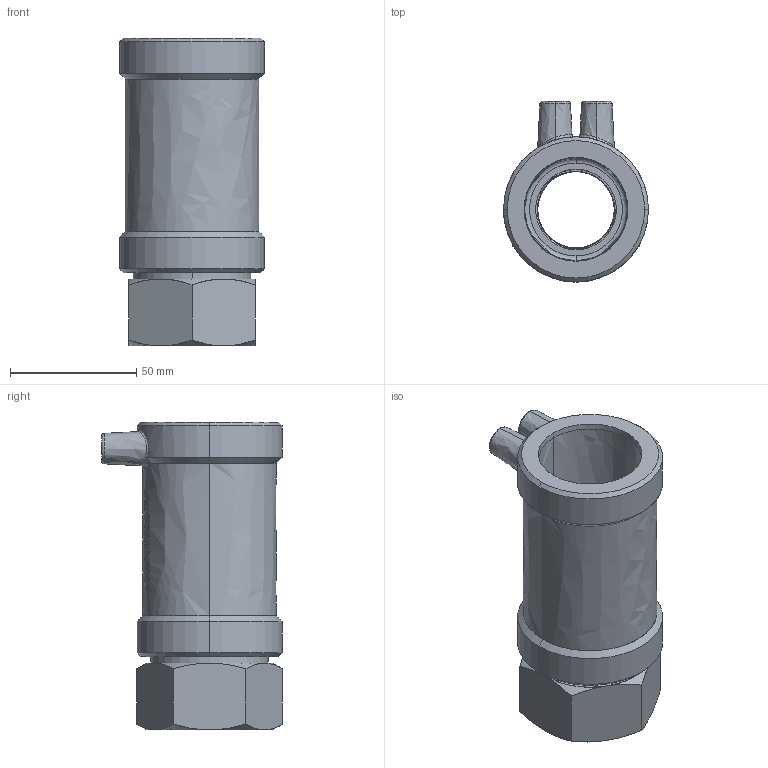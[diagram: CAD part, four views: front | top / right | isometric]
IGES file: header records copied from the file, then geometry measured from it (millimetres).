
Start section:  PTC IGES file: ustm_d40_1_01.igs
Global section: file name: ustm_d40_1_01.igs; native system: Pro/ENGINEER by Parametric Technology Corporation; preprocessor: 2011490; author: mtunjic; organization: Unknown; date: 20130823.113513; units: millimetre
Bounding box: 57.5 x 71.67 x 122 mm (x, y, z)
Surface area: 43703.4 mm2 (no closed solid volume)
Topology: 0 solids, 0 shells, 217 faces, 1104 edges, 1104 vertices
Faces by surface type: bspline 217
